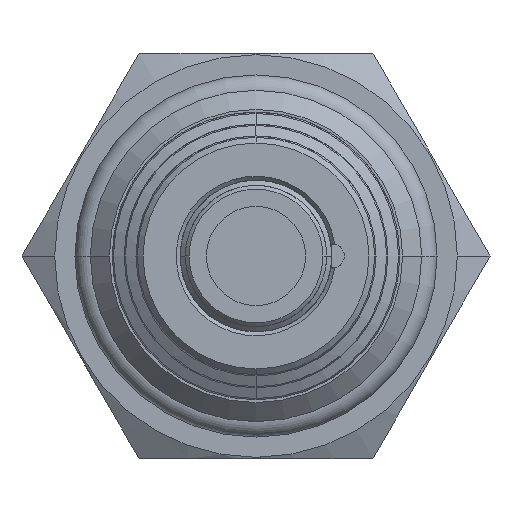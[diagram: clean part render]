
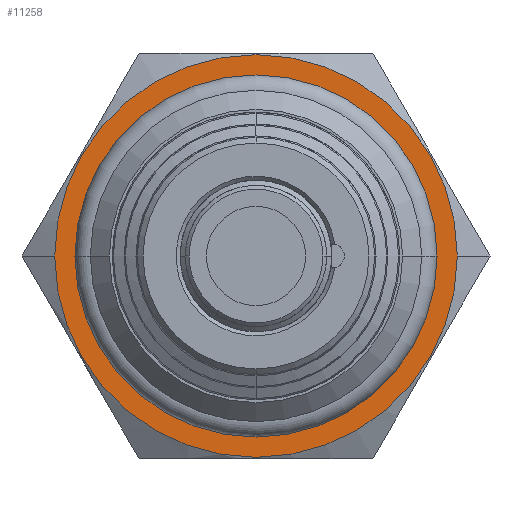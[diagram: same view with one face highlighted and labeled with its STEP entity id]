
A CAD part, front view. The second image highlights one B-rep face of the part: STEP entity #11258.
In plain terms, the highlighted planar face has unit normal (0, -1, 0).
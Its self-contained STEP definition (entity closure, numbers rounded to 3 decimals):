
#5284=CARTESIAN_POINT('',(0.,0.,0.));
#5285=DIRECTION('',(0.,1.,0.));
#5286=DIRECTION('',(1.,0.,0.));
#5287=AXIS2_PLACEMENT_3D('',#5284,#5285,#5286);
#5289=CARTESIAN_POINT('',(0.,0.,0.));
#5290=DIRECTION('',(0.,-1.,0.));
#5291=DIRECTION('',(1.,0.,0.));
#5292=AXIS2_PLACEMENT_3D('',#5289,#5290,#5291);
#5294=CARTESIAN_POINT('',(0.,0.,0.));
#5295=DIRECTION('',(0.,1.,0.));
#5296=DIRECTION('',(-1.,0.,0.));
#5297=AXIS2_PLACEMENT_3D('',#5294,#5295,#5296);
#5299=CARTESIAN_POINT('',(0.,0.,0.));
#5300=DIRECTION('',(0.,1.,0.));
#5301=DIRECTION('',(1.,0.,0.));
#5302=AXIS2_PLACEMENT_3D('',#5299,#5300,#5301);
#8013=CARTESIAN_POINT('',(13.399,0.,0.));
#8015=VERTEX_POINT('',#8013);
#8017=CARTESIAN_POINT('',(-13.399,0.,0.));
#8019=VERTEX_POINT('',#8017);
#8365=CARTESIAN_POINT('',(-10.958,0.,0.));
#8366=CARTESIAN_POINT('',(10.958,0.,0.));
#8367=VERTEX_POINT('',#8365);
#8368=VERTEX_POINT('',#8366);
#11242=CARTESIAN_POINT('',(0.,0.,0.));
#11243=DIRECTION('',(0.,1.,0.));
#11244=DIRECTION('',(1.,0.,0.));
#11245=AXIS2_PLACEMENT_3D('',#11242,#11243,#11244);
#11246=PLANE('',#11245);
#11248=ORIENTED_EDGE('',*,*,#11247,.T.);
#11250=ORIENTED_EDGE('',*,*,#11249,.F.);
#11251=EDGE_LOOP('',(#11248,#11250));
#11252=FACE_OUTER_BOUND('',#11251,.F.);
#11254=ORIENTED_EDGE('',*,*,#11253,.F.);
#11255=ORIENTED_EDGE('',*,*,#11232,.F.);
#11256=EDGE_LOOP('',(#11254,#11255));
#11257=FACE_BOUND('',#11256,.F.);
#11258=ADVANCED_FACE('',(#11252,#11257),#11246,.F.);
#5288=CIRCLE('',#5287,13.399);
#5293=CIRCLE('',#5292,13.399);
#5298=CIRCLE('',#5297,10.958);
#5303=CIRCLE('',#5302,10.958);
#11232=EDGE_CURVE('',#8368,#8367,#5303,.T.);
#11247=EDGE_CURVE('',#8015,#8019,#5288,.T.);
#11249=EDGE_CURVE('',#8015,#8019,#5293,.T.);
#11253=EDGE_CURVE('',#8367,#8368,#5298,.T.);
